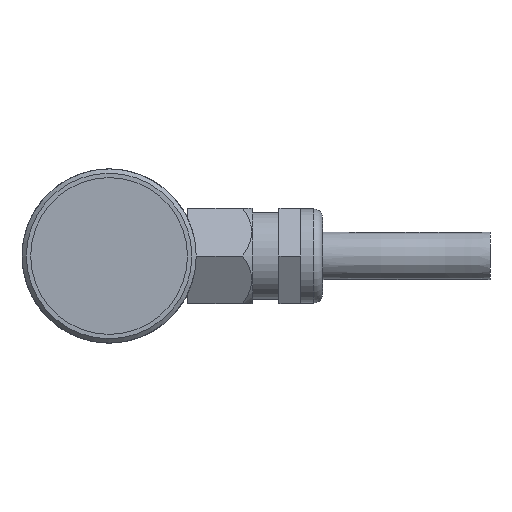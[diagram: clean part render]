
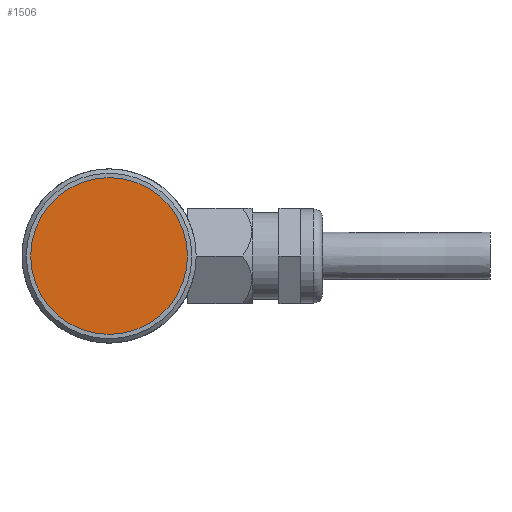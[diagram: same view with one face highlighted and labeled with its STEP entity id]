
A CAD part, left-side view. The second image highlights one B-rep face of the part: STEP entity #1506.
In plain terms, the highlighted planar face has unit normal (-1, 0, 0).
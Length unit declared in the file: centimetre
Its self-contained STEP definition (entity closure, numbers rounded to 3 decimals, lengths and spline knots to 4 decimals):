
#459=VERTEX_POINT('',#2140);
#587=CIRCLE('',#1619,0.9);
#654=EDGE_CURVE('',#459,#459,#587,.T.);
#873=ORIENTED_EDGE('',*,*,#654,.T.);
#1265=EDGE_LOOP('',(#873));
#1390=FACE_BOUND('',#1265,.T.);
#1506=ADVANCED_FACE('',(#1390),#2975,.F.);
#1619=AXIS2_PLACEMENT_3D('',#2139,#1794,#1795);
#1620=AXIS2_PLACEMENT_3D('',#2141,#1796,$);
#1794=DIRECTION('',(-1.,0.,0.));
#1795=DIRECTION('',(0.,0.,-0.9));
#1796=DIRECTION('',(1.,0.,0.));
#2139=CARTESIAN_POINT('',(-2.2,0.,0.));
#2140=CARTESIAN_POINT('',(-2.2,0.,-0.9));
#2141=CARTESIAN_POINT('',(-2.2,0.,0.));
#2975=PLANE('',#1620);
